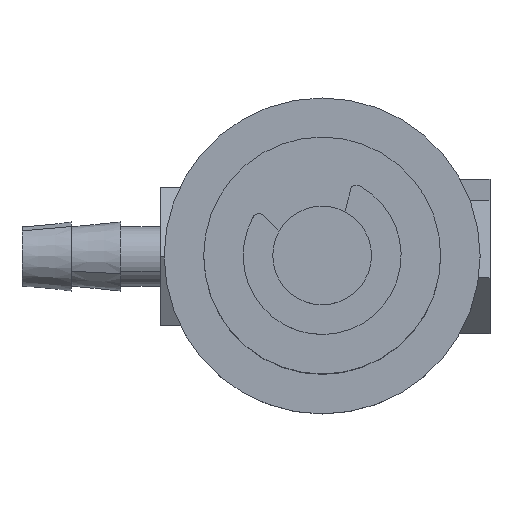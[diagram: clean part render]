
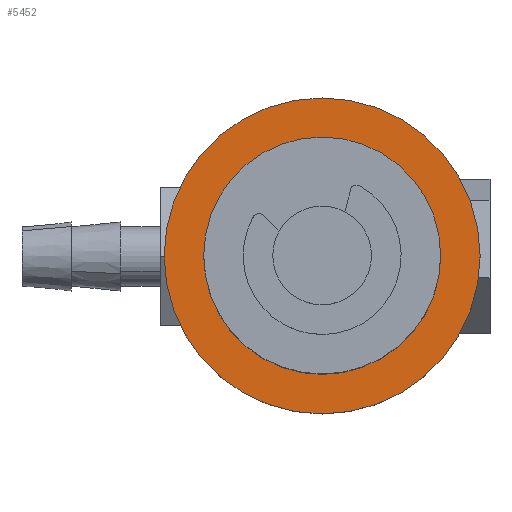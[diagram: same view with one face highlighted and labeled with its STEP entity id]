
A CAD part, top view. The second image highlights one B-rep face of the part: STEP entity #5452.
In plain terms, the highlighted planar face has unit normal (0, 0, 1).
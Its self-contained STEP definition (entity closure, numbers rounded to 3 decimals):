
#48 = ORIENTED_EDGE ( 'NONE', *, *, #6903, .T. ) ;
#96 = AXIS2_PLACEMENT_3D ( 'NONE', #1120, #5786, #1801 ) ;
#275 = CIRCLE ( 'NONE', #1353, 8. ) ;
#434 = AXIS2_PLACEMENT_3D ( 'NONE', #1655, #6301, #2339 ) ;
#1120 = CARTESIAN_POINT ( 'NONE',  ( 2.859, 1.359, 5.25 ) ) ;
#1353 = AXIS2_PLACEMENT_3D ( 'NONE', #3409, #8043, #4090 ) ;
#1598 = ORIENTED_EDGE ( 'NONE', *, *, #8284, .T. ) ;
#1629 = VERTEX_POINT ( 'NONE', #8331 ) ;
#1655 = CARTESIAN_POINT ( 'NONE',  ( 2.859, 1.359, 5.25 ) ) ;
#1665 = EDGE_CURVE ( 'NONE', #3849, #1991, #3322, .T. ) ;
#1801 = DIRECTION ( 'NONE',  ( 0., 1., 0. ) ) ;
#1965 = AXIS2_PLACEMENT_3D ( 'NONE', #2058, #6709, #2723 ) ;
#1991 = VERTEX_POINT ( 'NONE', #3958 ) ;
#2058 = CARTESIAN_POINT ( 'NONE',  ( -5.237, -6.737, 5.25 ) ) ;
#2082 = DIRECTION ( 'NONE',  ( 0., 0., -1. ) ) ;
#2339 = DIRECTION ( 'NONE',  ( -1., 0., 0. ) ) ;
#2723 = DIRECTION ( 'NONE',  ( 1., 0., 0. ) ) ;
#3005 = FACE_BOUND ( 'NONE', #6270, .T. ) ;
#3310 = CARTESIAN_POINT ( 'NONE',  ( 2.859, 7.359, 5.25 ) ) ;
#3322 = CIRCLE ( 'NONE', #96, 6. ) ;
#3409 = CARTESIAN_POINT ( 'NONE',  ( 2.859, 1.359, 5.25 ) ) ;
#3697 = AXIS2_PLACEMENT_3D ( 'NONE', #6065, #2082, #6730 ) ;
#3776 = ORIENTED_EDGE ( 'NONE', *, *, #1665, .T. ) ;
#3849 = VERTEX_POINT ( 'NONE', #3310 ) ;
#3942 = CIRCLE ( 'NONE', #434, 8. ) ;
#3958 = CARTESIAN_POINT ( 'NONE',  ( 2.859, -4.641, 5.25 ) ) ;
#4090 = DIRECTION ( 'NONE',  ( -1., 0., 0. ) ) ;
#4441 = ORIENTED_EDGE ( 'NONE', *, *, #5520, .T. ) ;
#4769 = FACE_OUTER_BOUND ( 'NONE', #5334, .T. ) ;
#5006 = CARTESIAN_POINT ( 'NONE',  ( 10.859, 1.359, 5.25 ) ) ;
#5183 = VERTEX_POINT ( 'NONE', #5006 ) ;
#5334 = EDGE_LOOP ( 'NONE', ( #4441, #48 ) ) ;
#5452 = ADVANCED_FACE ( 'NONE', ( #3005, #4769 ), #7942, .T. ) ;
#5520 = EDGE_CURVE ( 'NONE', #1629, #5183, #275, .T. ) ;
#5786 = DIRECTION ( 'NONE',  ( 0., 0., -1. ) ) ;
#6065 = CARTESIAN_POINT ( 'NONE',  ( 2.859, 1.359, 5.25 ) ) ;
#6270 = EDGE_LOOP ( 'NONE', ( #3776, #1598 ) ) ;
#6301 = DIRECTION ( 'NONE',  ( 0., 0., 1. ) ) ;
#6346 = CIRCLE ( 'NONE', #3697, 6. ) ;
#6709 = DIRECTION ( 'NONE',  ( 0., 0., 1. ) ) ;
#6730 = DIRECTION ( 'NONE',  ( 0., 1., 0. ) ) ;
#6903 = EDGE_CURVE ( 'NONE', #5183, #1629, #3942, .T. ) ;
#7942 = PLANE ( 'NONE',  #1965 ) ;
#8043 = DIRECTION ( 'NONE',  ( 0., 0., 1. ) ) ;
#8284 = EDGE_CURVE ( 'NONE', #1991, #3849, #6346, .T. ) ;
#8331 = CARTESIAN_POINT ( 'NONE',  ( -5.141, 1.359, 5.25 ) ) ;
